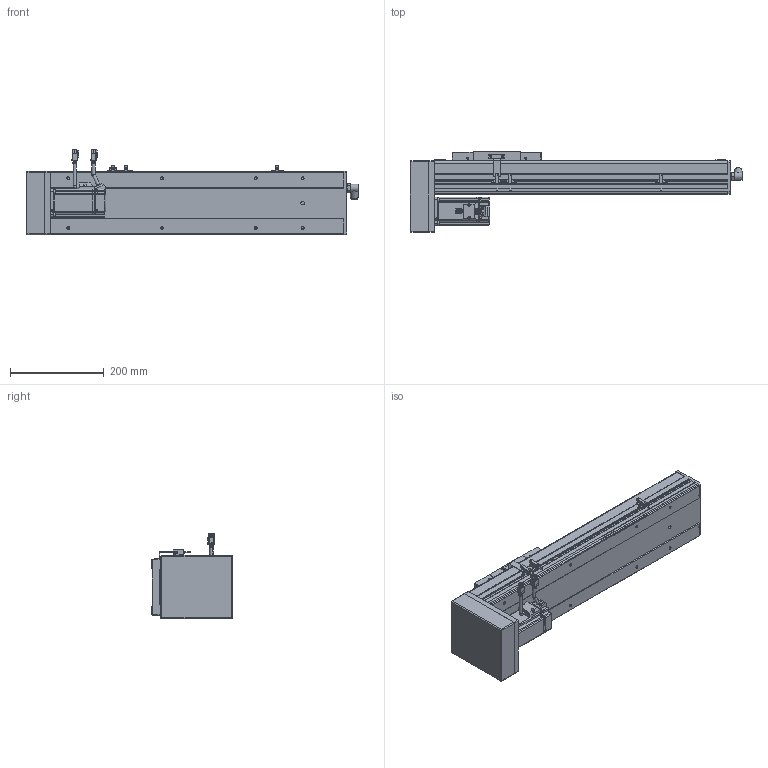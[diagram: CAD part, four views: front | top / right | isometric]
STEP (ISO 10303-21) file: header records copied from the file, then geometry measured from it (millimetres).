
FILE_DESCRIPTION(/* description */ ('STEP AP214'),/* implementation_level */ '2;1');
FILE_NAME(/* name */ 'PSC140-L05-S350-BM-P40-C1-N(0-P)',/* time_stamp */ '2022-06-13T03:20:42+02:00',/* author */ ('License CC BY-ND 4.0'),/* organization */ ('CADENAS'),/* preprocessor_version */ 'ST-DEVELOPER v18.102',/* originating_system */ 'PARTsolutions',/* authorisation */ ' ');
FILE_SCHEMA (('AUTOMOTIVE_DESIGN {1 0 10303 214 3 1 1}'));
Length unit declared in the file: millimetre
Products named in the file (11): PSC140-L05-S350-BM-P40-C1-N(0-P); P40-s2; P40-c2; P40-s1; P40-c1; P40-p1; PSC140-BM-body2; PSC140-sensor; PSC140-BM-SLIDER; PSC140-S350-BM-P40-C1-P_BODY1; PSC140-L05-S350-BM-P40-C1-N(0-P)_dummy
Assembly tree (12 placements, depth 2):
  PSC140-L05-S350-BM-P40-C1-N(0-P)
    P40-s2
    P40-c2
    P40-s1
    P40-c1
    P40-p1
    PSC140-BM-body2
    PSC140-sensor  x3
    PSC140-BM-SLIDER
    PSC140-S350-BM-P40-C1-P_BODY1
    PSC140-L05-S350-BM-P40-C1-N(0-P)_dummy
Bounding box: 708 x 171.5 x 182.48 mm (x, y, z)
Volume: 7828190.3 mm3; surface area: 503329.4 mm2
Topology: 11 solids, 11 shells, 1226 faces, 3175 edges, 2102 vertices
Faces by surface type: plane 858, cylinder 313, cone 36, torus 19
Full cylindrical faces by diameter (mm): 1 x8, 2.6 x10, 2.8 x3, 3.3 x8, 4.5 x12, 4.6 x3, 4.917 x12, 5 x4, 5.5 x8, 6 x11, 7 x10, 9 x2, 10 x1, 11 x1, 12 x1, 13.74 x1, 14 x1, 16.4 x2, 16.5 x1, 36 x1, 50 x2
Entity records: 34032 total; most frequent: CARTESIAN_POINT 5948, DIRECTION 5717, ORIENTED_EDGE 5538, EDGE_CURVE 2769, LINE 2105, VECTOR 2105, VERTEX_POINT 1922, AXIS2_PLACEMENT_3D 1806
